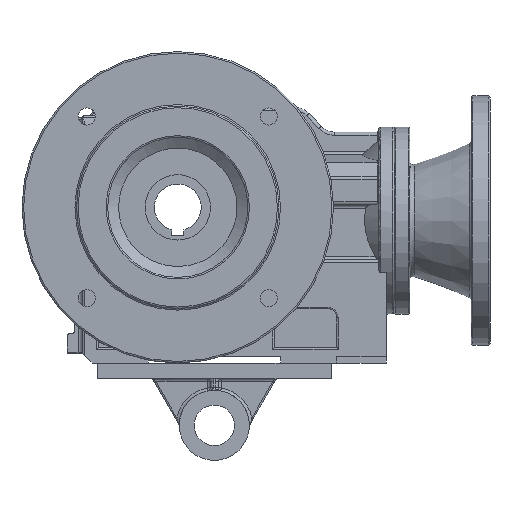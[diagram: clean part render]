
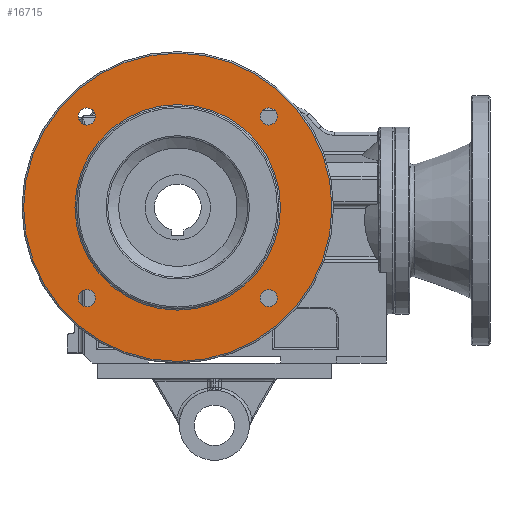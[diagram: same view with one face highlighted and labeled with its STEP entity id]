
A CAD part, front view. The second image highlights one B-rep face of the part: STEP entity #16715.
In plain terms, the highlighted planar face has unit normal (0, -1, 0).
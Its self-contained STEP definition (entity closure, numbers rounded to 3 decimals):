
#16355=CARTESIAN_POINT('',(-52.836,-28.0,58.336));
#16356=VERTEX_POINT('',#16355);
#16357=CARTESIAN_POINT('',(-58.336,-28.0,58.336));
#16358=DIRECTION('',(0.0,1.0,0.0));
#16359=DIRECTION('',(1.0,0.0,0.0));
#16360=AXIS2_PLACEMENT_3D('',#16357,#16358,#16359);
#16361=CIRCLE('',#16360,5.5);
#16362=EDGE_CURVE('',#16356,#16356,#16361,.T.);
#16404=CARTESIAN_POINT('',(-52.836,-28.0,-58.336));
#16405=VERTEX_POINT('',#16404);
#16406=CARTESIAN_POINT('',(-58.336,-28.0,-58.336));
#16407=DIRECTION('',(0.0,1.0,0.0));
#16408=DIRECTION('',(1.0,0.0,0.0));
#16409=AXIS2_PLACEMENT_3D('',#16406,#16407,#16408);
#16410=CIRCLE('',#16409,5.5);
#16411=EDGE_CURVE('',#16405,#16405,#16410,.T.);
#16453=CARTESIAN_POINT('',(63.836,-28.0,-58.336));
#16454=VERTEX_POINT('',#16453);
#16455=CARTESIAN_POINT('',(58.336,-28.0,-58.336));
#16456=DIRECTION('',(0.0,1.0,0.0));
#16457=DIRECTION('',(1.0,0.0,0.0));
#16458=AXIS2_PLACEMENT_3D('',#16455,#16456,#16457);
#16459=CIRCLE('',#16458,5.5);
#16460=EDGE_CURVE('',#16454,#16454,#16459,.T.);
#16502=CARTESIAN_POINT('',(63.836,-28.0,58.336));
#16503=VERTEX_POINT('',#16502);
#16504=CARTESIAN_POINT('',(58.336,-28.0,58.336));
#16505=DIRECTION('',(0.0,1.0,0.0));
#16506=DIRECTION('',(1.0,0.0,0.0));
#16507=AXIS2_PLACEMENT_3D('',#16504,#16505,#16506);
#16508=CIRCLE('',#16507,5.5);
#16509=EDGE_CURVE('',#16503,#16503,#16508,.T.);
#16669=CARTESIAN_POINT('',(-99.0,-28.0,0.0));
#16670=VERTEX_POINT('',#16669);
#16671=CARTESIAN_POINT('',(0.0,-28.0,0.0));
#16672=DIRECTION('',(0.0,1.0,0.0));
#16673=DIRECTION('',(1.0,0.0,0.0));
#16674=AXIS2_PLACEMENT_3D('',#16671,#16672,#16673);
#16675=CIRCLE('',#16674,99.0);
#16676=EDGE_CURVE('',#16670,#16670,#16675,.T.);
#16684=CARTESIAN_POINT('',(-82.5,-28.0,0.));
#16685=DIRECTION('',(0.0,-1.0,0.0));
#16686=DIRECTION('',(0.0,0.0,-1.0));
#16687=AXIS2_PLACEMENT_3D('',#16684,#16685,#16686);
#16688=PLANE('',#16687);
#16689=ORIENTED_EDGE('',*,*,#16676,.F.);
#16690=EDGE_LOOP('',(#16689));
#16691=FACE_OUTER_BOUND('',#16690,.T.);
#16692=ORIENTED_EDGE('',*,*,#16362,.T.);
#16693=EDGE_LOOP('',(#16692));
#16694=FACE_BOUND('',#16693,.T.);
#16695=ORIENTED_EDGE('',*,*,#16411,.T.);
#16696=EDGE_LOOP('',(#16695));
#16697=FACE_BOUND('',#16696,.T.);
#16698=ORIENTED_EDGE('',*,*,#16460,.T.);
#16699=EDGE_LOOP('',(#16698));
#16700=FACE_BOUND('',#16699,.T.);
#16701=ORIENTED_EDGE('',*,*,#16509,.T.);
#16702=EDGE_LOOP('',(#16701));
#16703=FACE_BOUND('',#16702,.T.);
#16704=CARTESIAN_POINT('',(-66.0,-28.0,0.));
#16705=VERTEX_POINT('',#16704);
#16706=CARTESIAN_POINT('',(0.0,-28.0,0.0));
#16707=DIRECTION('',(0.0,-1.0,0.0));
#16708=DIRECTION('',(1.0,0.0,0.0));
#16709=AXIS2_PLACEMENT_3D('',#16706,#16707,#16708);
#16710=CIRCLE('',#16709,66.0);
#16711=EDGE_CURVE('',#16705,#16705,#16710,.T.);
#16712=ORIENTED_EDGE('',*,*,#16711,.F.);
#16713=EDGE_LOOP('',(#16712));
#16714=FACE_BOUND('',#16713,.T.);
#16715=ADVANCED_FACE('',(#16691,#16694,#16697,#16700,#16703,#16714),#16688,.T.);
